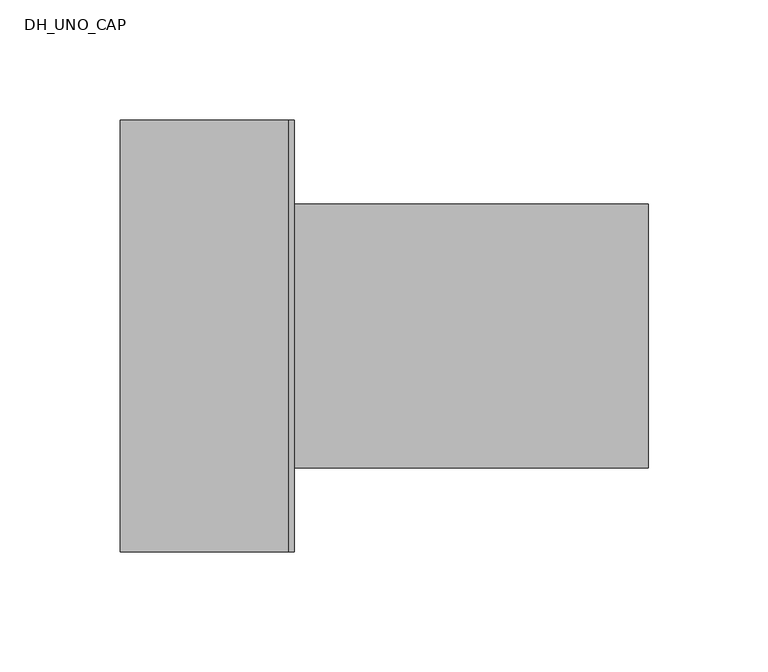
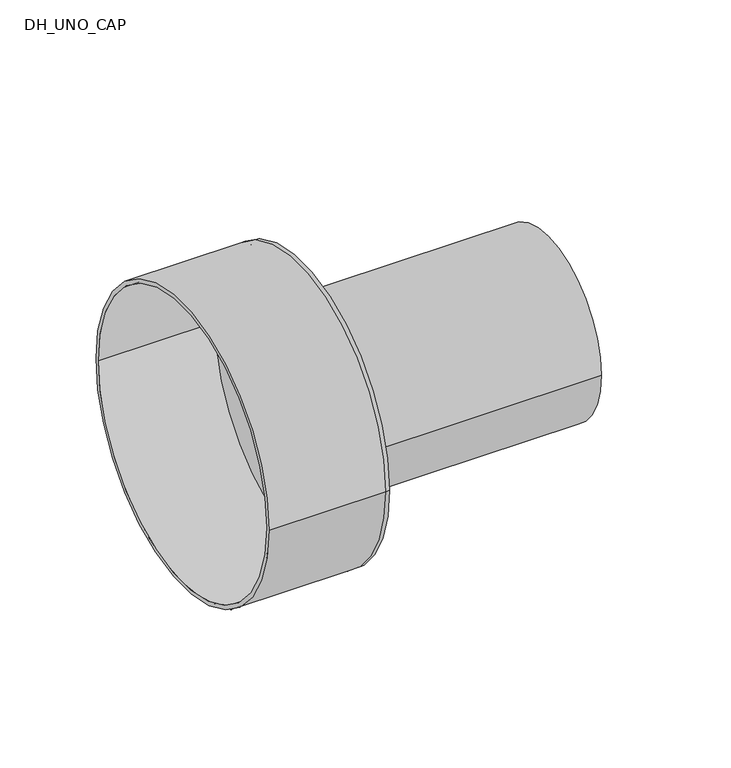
"""IFC4 building model written with IfcOpenShell, lengths in millimetres: pipe fitting geometry, DH_UNO_CAP : RAUVIPEX UNO + 11 Heating - Solid Cap."""

from ifc_helpers import new_model, si_unit, point, frame, origin, origin_2d, place, context, project, spatial, polyline, circle_curve, trimmed, segment, composite_curve, outline, extrude, source, transform, mapped, element, save
from ifc_brep_helpers import plane_surface, cylinder_surface, revolved_surface, advanced_brep


def dh_uno_cap_13f4f05b(model_context):
    return source(origin(), model_context, "Body", "SolidModel", [
        extrude(outline(composite_curve([segment(trimmed(circle_curve(origin_2d(), 55.0), [point((-55.0, 0.0))], [point((55.0, 0.0))], False, "CARTESIAN"), True, "CONTINUOUS"), segment(trimmed(circle_curve(origin_2d(), 55.0), [point((55.0, 0.0))], [point((-55.0, 0.0))], False, "CARTESIAN"), True, "CONTINUOUS")], self_intersect=False), holes=[composite_curve([segment(trimmed(circle_curve(origin_2d(), 45.0), [point((-45.0, 0.0))], [point((45.0, 0.0))], True, "CARTESIAN"), True, "CONTINUOUS"), segment(trimmed(circle_curve(origin_2d(), 45.0), [point((45.0, 0.0))], [point((-45.0, 0.0))], True, "CARTESIAN"), True, "CONTINUOUS")], self_intersect=False)]), frame((0.0, 0.0, 0.0), z_axis=(1.0, 0.0, 0.0), x_axis=(0.0, 1.0, 0.0)), (0.0, 0.0, 1.0), 150.0),
        advanced_brep(
        [(-70.0, -90.0, 0.0), (-70.0, 90.0, 0.0), (-70.0, -87.5, 0.0), (-70.0, 87.5, 0.0), (0.0, -87.5, 0.0), (0.0, 87.5, 0.0), (0.0, -90.0, 0.0), (0.0, 90.0, 0.0), (0.0, 55.0, 0.0), (0.0, -55.0, 0.0), (2.5, -90.0, 0.0), (2.5, 90.0, 0.0), (2.5, -55.0, 0.0), (2.5, 55.0, 0.0)],
        [
            (0, 1, circle_curve(frame((-70.0, 0.0, 0.0), z_axis=(-1.0, 0.0, 0.0), x_axis=(0.0, 1.0, 0.0)), 90.0)),
            (1, 0, circle_curve(frame((-70.0, 0.0, 0.0), z_axis=(-1.0, 0.0, 0.0), x_axis=(0.0, 1.0, 0.0)), 90.0)),
            (2, 3, circle_curve(frame((-70.0, 0.0, 0.0), z_axis=(1.0, 0.0, 0.0), x_axis=(0.0, 1.0, 0.0)), 87.5)),
            (3, 2, circle_curve(frame((-70.0, 0.0, 0.0), z_axis=(1.0, 0.0, 0.0), x_axis=(0.0, 1.0, 0.0)), 87.5)),
            (2, 4),
            (4, 5, circle_curve(frame((0.0, 0.0, 0.0), z_axis=(1.0, 0.0, 0.0), x_axis=(0.0, 1.0, 0.0)), 87.5)),
            (5, 3),
            (5, 4, circle_curve(frame((0.0, 0.0, 0.0), z_axis=(1.0, 0.0, 0.0), x_axis=(0.0, 1.0, 0.0)), 87.5)),
            (0, 6),
            (6, 7, circle_curve(frame((0.0, 0.0, 0.0), z_axis=(-1.0, 0.0, 0.0), x_axis=(0.0, 1.0, 0.0)), 90.0)),
            (7, 1),
            (7, 6, circle_curve(frame((0.0, 0.0, 0.0), z_axis=(-1.0, 0.0, 0.0), x_axis=(0.0, 1.0, 0.0)), 90.0)),
            (8, 9, circle_curve(frame((0.0, 0.0, 0.0), z_axis=(1.0, 0.0, 0.0), x_axis=(0.0, 1.0, 0.0)), 55.0)),
            (9, 8, circle_curve(frame((0.0, 0.0, 0.0), z_axis=(1.0, 0.0, 0.0), x_axis=(0.0, 1.0, 0.0)), 55.0)),
            (10, 11, circle_curve(frame((2.5, 0.0, 0.0), z_axis=(1.0, 0.0, 0.0), x_axis=(0.0, 1.0, 0.0)), 90.0)),
            (11, 10, circle_curve(frame((2.5, 0.0, 0.0), z_axis=(1.0, 0.0, 0.0), x_axis=(0.0, 1.0, 0.0)), 90.0)),
            (12, 13, circle_curve(frame((2.5, 0.0, 0.0), z_axis=(-1.0, 0.0, 0.0), x_axis=(0.0, 1.0, 0.0)), 55.0)),
            (13, 12, circle_curve(frame((2.5, 0.0, 0.0), z_axis=(-1.0, 0.0, 0.0), x_axis=(0.0, 1.0, 0.0)), 55.0)),
            (11, 7),
            (6, 10),
            (8, 13),
            (12, 9),
        ],
        [
            plane_surface(frame((-70.0, 0.0, 0.0), z_axis=(-1.0, 0.0, 0.0), x_axis=(0.0, 0.0, 1.0))),
            revolved_surface(polyline([(0.0, 87.5, 0.0), (-70.0, 87.5, 0.0)]), (-70.0, 0.0, 0.0), (1.0, 0.0, 0.0)),
            cylinder_surface(frame((-70.0, 0.0, 0.0), z_axis=(-1.0, 0.0, 0.0), x_axis=(0.0, 1.0, 0.0)), 90.0),
            plane_surface(frame((0.0, 0.0, 0.0), z_axis=(-1.0, 0.0, 0.0), x_axis=(0.0, 0.0, 1.0))),
            plane_surface(frame((2.5, 0.0, 0.0), z_axis=(1.0, 0.0, 0.0), x_axis=(0.0, 0.0, 1.0))),
            cylinder_surface(frame((0.0, 0.0, 0.0), z_axis=(-1.0, 0.0, 0.0), x_axis=(0.0, 1.0, 0.0)), 90.0),
            revolved_surface(polyline([(0.0, 55.0, 0.0), (2.5, 55.0, 0.0)]), (0.0, 0.0, 0.0), (-1.0, 0.0, 0.0)),
        ],
        [
            (0, [[1, 2], [3, 4]]),
            (1, [[-3, 5, 6, 7]]),
            (1, [[-4, -7, 8, -5]]),
            (2, [[-1, 9, 10, 11]]),
            (2, [[-2, -11, 12, -9]]),
            (3, [[-6, -8], [13, 14]]),
            (4, [[15, 16], [17, 18]]),
            (5, [[-16, 19, -10, 20]]),
            (5, [[-15, -20, -12, -19]]),
            (6, [[21, -17, 22, -13]]),
            (6, [[-21, -14, -22, -18]]),
        ],
    ),
    ])


if __name__ == "__main__":
    model = new_model("IFC4")
    model_context = context("Model", 3, world=origin())
    ifc_project = project(units=[si_unit("LENGTHUNIT", "METRE", prefix="MILLI")], contexts=[model_context])
    site = spatial("IfcSite", under=ifc_project)
    building = spatial("IfcBuilding", under=site)
    placement = place(None, origin())
    dh_uno_cap_shape = dh_uno_cap_13f4f05b(model_context)
    element("IfcPipeFitting", 1, ObjectType="DH_UNO_CAP : RAUVIPEX UNO + 11 Heating - Solid Cap", at=placement, inside=building, context=model_context, shape_type="MappedRepresentation", body=[
        mapped(dh_uno_cap_shape, transform((0.0, 0.0, 0.0), x_axis=(1.0, 0.0, 0.0), y_axis=(0.0, 1.0, 0.0), z_axis=(0.0, 0.0, 1.0))),
    ])
    save(model, "model.ifc")
